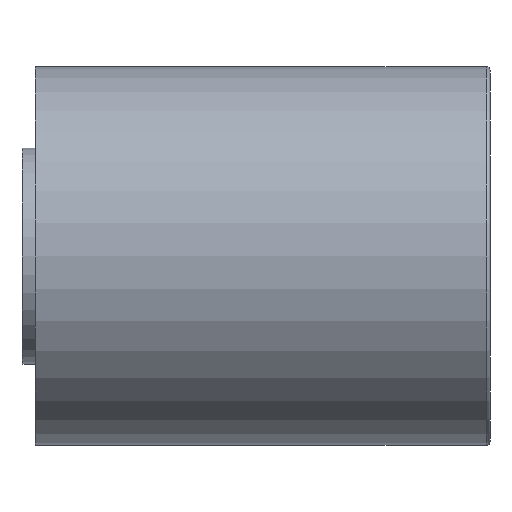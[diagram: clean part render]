
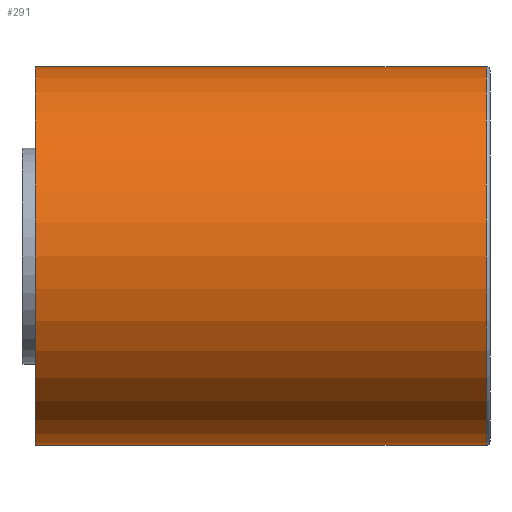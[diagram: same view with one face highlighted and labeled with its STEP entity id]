
A CAD part, front view. The second image highlights one B-rep face of the part: STEP entity #291.
In plain terms, the highlighted cylindrical face has radius 5 mm (diameter 10 mm), a full revolution.
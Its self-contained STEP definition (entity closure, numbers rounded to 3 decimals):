
#291 = ADVANCED_FACE( '', ( #600, #601 ), #602, .T. );
#600 = FACE_OUTER_BOUND( '', #967, .T. );
#601 = FACE_OUTER_BOUND( '', #968, .T. );
#602 = CYLINDRICAL_SURFACE( '', #969, 5. );
#967 = EDGE_LOOP( '', ( #2072 ) );
#968 = EDGE_LOOP( '', ( #2073 ) );
#969 = AXIS2_PLACEMENT_3D( '', #2074, #2075, #2076 );
#2072 = ORIENTED_EDGE( '', *, *, #2435, .T. );
#2073 = ORIENTED_EDGE( '', *, *, #2707, .F. );
#2074 = CARTESIAN_POINT( '', ( 10.1, 0., 0. ) );
#2075 = DIRECTION( '', ( -1., 0., 0. ) );
#2076 = DIRECTION( '', ( 0., 0., -1. ) );
#2435 = EDGE_CURVE( '', #2896, #2896, #2897, .T. );
#2707 = EDGE_CURVE( '', #3336, #3336, #3337, .T. );
#2896 = VERTEX_POINT( '', #3593 );
#2897 = CIRCLE( '', #3594, 5. );
#3336 = VERTEX_POINT( '', #4205 );
#3337 = CIRCLE( '', #4206, 5. );
#3593 = CARTESIAN_POINT( '', ( -1.9, 0., -5. ) );
#3594 = AXIS2_PLACEMENT_3D( '', #4505, #4506, #4507 );
#4205 = CARTESIAN_POINT( '', ( 10., 0., -5. ) );
#4206 = AXIS2_PLACEMENT_3D( '', #4977, #4978, #4979 );
#4505 = CARTESIAN_POINT( '', ( -1.9, 0., 0. ) );
#4506 = DIRECTION( '', ( 1., 0., 0. ) );
#4507 = DIRECTION( '', ( 0., 0., -1. ) );
#4977 = CARTESIAN_POINT( '', ( 10., 0., 0. ) );
#4978 = DIRECTION( '', ( 1., 0., 0. ) );
#4979 = DIRECTION( '', ( 0., 0., -1. ) );
